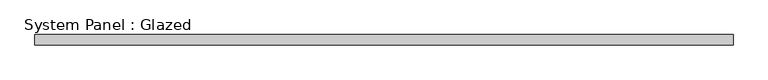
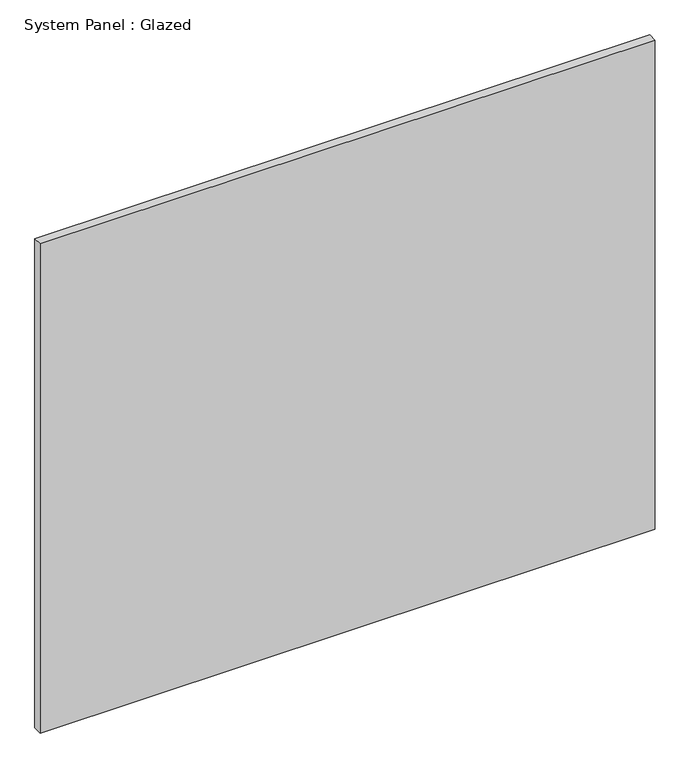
"""IFC4 building model written with IfcOpenShell, lengths in millimetres: plate geometry, System Panel : Glazed."""

from ifc_helpers import new_model, si_unit, origin, origin_with_axes, place, context, project, spatial, polyline, outline, extrude, source, transform, mapped, element, save


def system_panel_glazed_2d01e38b(model_context):
    return source(origin(), model_context, "Body", "SweptSolid", [
        extrude(outline(polyline([(862.5000002, -49.5), (-862.5000002, -49.5), (-862.5000002, -24.5), (862.5000002, -24.5), (862.5000002, -49.5)])), origin_with_axes(), (0.0, 0.0, 1.0), 1450.0),
    ])


if __name__ == "__main__":
    model = new_model("IFC4")
    model_context = context("Model", 3, world=origin())
    ifc_project = project(units=[si_unit("LENGTHUNIT", "METRE", prefix="MILLI")], contexts=[model_context])
    site = spatial("IfcSite", under=ifc_project)
    building = spatial("IfcBuilding", under=site)
    placement = place(None, origin())
    system_panel_glazed_shape = system_panel_glazed_2d01e38b(model_context)
    element("IfcPlate", 1, ObjectType="System Panel : Glazed", at=placement, inside=building, context=model_context, shape_type="MappedRepresentation", body=[
        mapped(system_panel_glazed_shape, transform((0.0, 0.0, 0.0), x_axis=(1.0, 0.0, 0.0), y_axis=(0.0, 1.0, 0.0), z_axis=(0.0, 0.0, 1.0))),
    ])
    save(model, "model.ifc")
